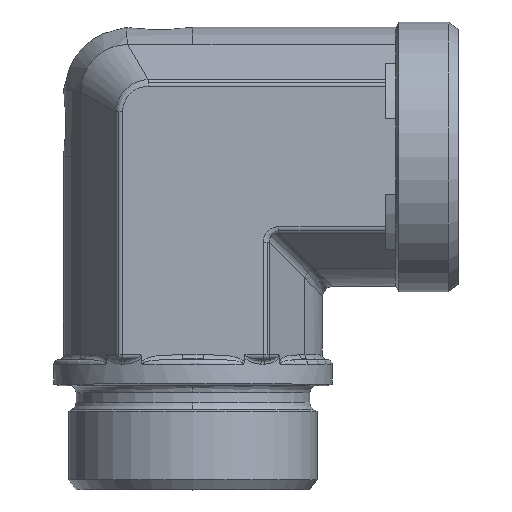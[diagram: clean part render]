
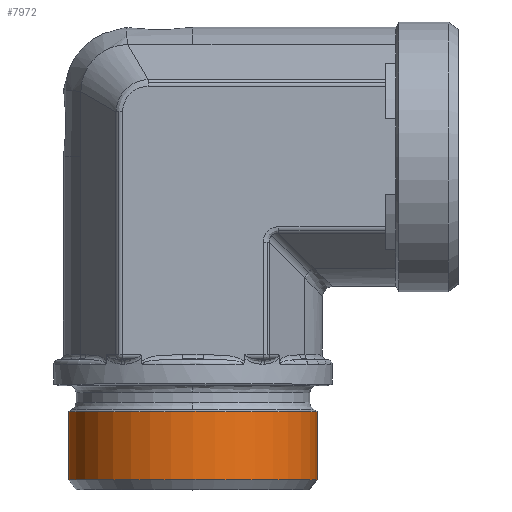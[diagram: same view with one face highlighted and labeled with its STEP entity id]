
A CAD part, top view. The second image highlights one B-rep face of the part: STEP entity #7972.
In plain terms, the highlighted cylindrical face has radius 23.91 mm (diameter 47.82 mm), a partial arc.
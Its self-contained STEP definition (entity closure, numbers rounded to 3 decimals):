
#858=CARTESIAN_POINT('',(57.563,0.,23.91));
#859=VERTEX_POINT('',#858);
#860=CARTESIAN_POINT('',(44.493,0.,23.91));
#861=VERTEX_POINT('',#860);
#862=CARTESIAN_POINT('',(57.563,0.,23.91));
#863=DIRECTION('',(-1.0,0.0,0.0));
#864=VECTOR('',#863,13.07);
#865=LINE('',#862,#864);
#866=EDGE_CURVE('',#859,#861,#865,.T.);
#868=CARTESIAN_POINT('',(57.563,0.,-23.91));
#869=VERTEX_POINT('',#868);
#877=CARTESIAN_POINT('',(44.493,0.,-23.91));
#878=VERTEX_POINT('',#877);
#879=CARTESIAN_POINT('',(44.493,0.,-23.91));
#880=DIRECTION('',(1.0,0.0,0.0));
#881=VECTOR('',#880,13.07);
#882=LINE('',#879,#881);
#883=EDGE_CURVE('',#878,#869,#882,.T.);
#7832=CARTESIAN_POINT('',(44.493,0.,0.));
#7833=DIRECTION('',(-1.0,0.0,0.0));
#7834=DIRECTION('',(0.0,0.0,1.0));
#7835=AXIS2_PLACEMENT_3D('',#7832,#7833,#7834);
#7836=CIRCLE('',#7835,23.91);
#7837=EDGE_CURVE('',#878,#861,#7836,.T.);
#7949=CARTESIAN_POINT('',(57.563,0.,0.));
#7950=DIRECTION('',(-1.0,0.0,0.0));
#7951=DIRECTION('',(0.0,0.0,1.0));
#7952=AXIS2_PLACEMENT_3D('',#7949,#7950,#7951);
#7953=CIRCLE('',#7952,23.91);
#7954=EDGE_CURVE('',#869,#859,#7953,.T.);
#7961=CARTESIAN_POINT('',(51.028,0.,0.0));
#7962=DIRECTION('',(-1.0,0.,0.));
#7963=DIRECTION('',(0.0,0.0,1.0));
#7964=AXIS2_PLACEMENT_3D('',#7961,#7962,#7963);
#7965=CYLINDRICAL_SURFACE('',#7964,23.91);
#7966=ORIENTED_EDGE('',*,*,#866,.T.);
#7967=ORIENTED_EDGE('',*,*,#7837,.F.);
#7968=ORIENTED_EDGE('',*,*,#883,.T.);
#7969=ORIENTED_EDGE('',*,*,#7954,.T.);
#7970=EDGE_LOOP('',(#7966,#7967,#7968,#7969));
#7971=FACE_OUTER_BOUND('',#7970,.T.);
#7972=ADVANCED_FACE('',(#7971),#7965,.T.);
